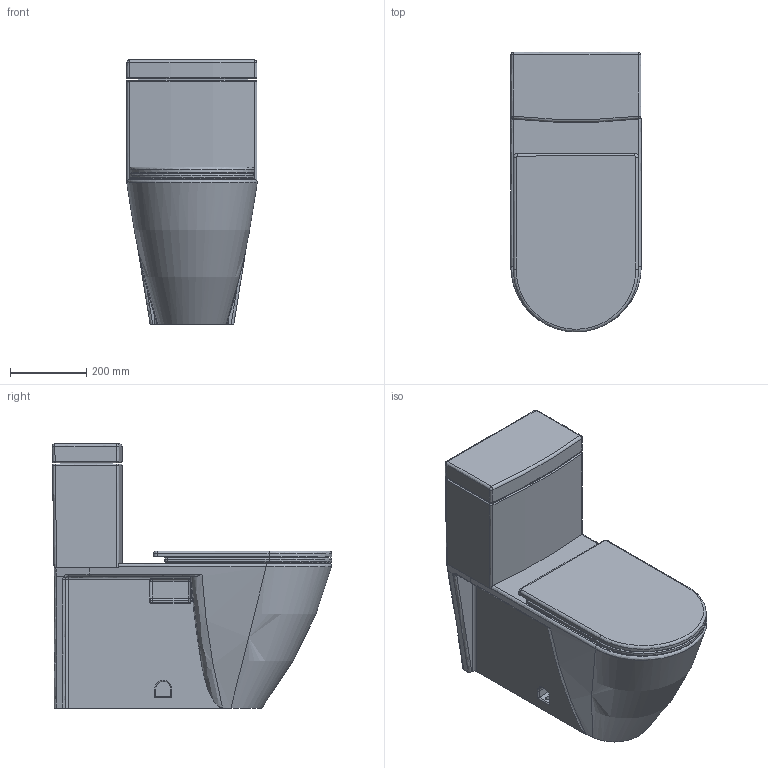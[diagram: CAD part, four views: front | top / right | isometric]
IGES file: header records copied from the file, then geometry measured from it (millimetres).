
Global section: file name: No Iges File Name specified; native system: AutoDesk Inventor R11.0; preprocessor: AutoDesk Inventor Iges Exporter R11.0; author: No Author specified; organization: No Organization specified; date: 20070816.070446; units: millimetre
Bounding box: 343.05 x 735.74 x 695 mm (x, y, z)
Volume: 66260766.7 mm3; surface area: 2075334.8 mm2
Topology: 2 solids, 3 shells, 291 faces, 681 edges, 402 vertices
Faces by surface type: bspline 99, plane 70, revolution 49, cylinder 44, torus 25, sphere 4
